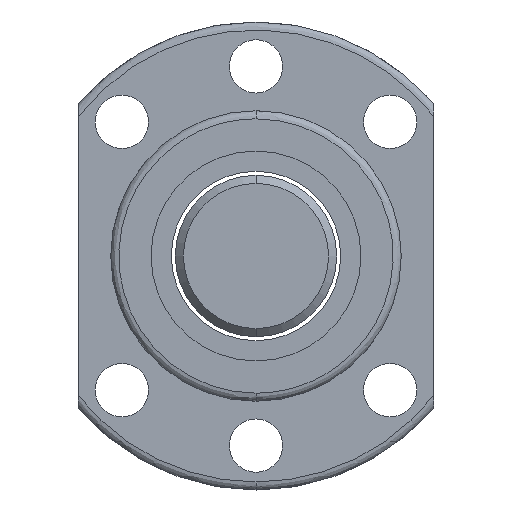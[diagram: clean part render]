
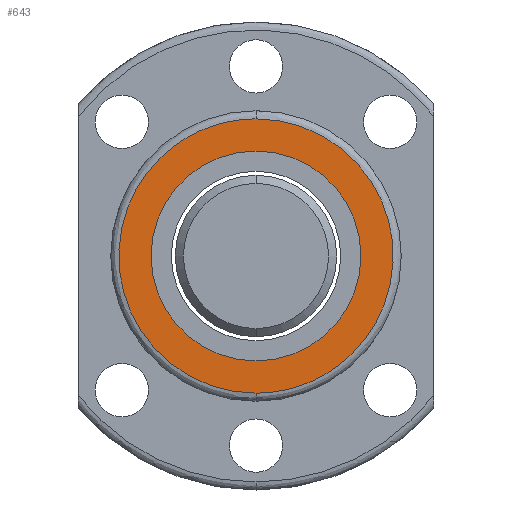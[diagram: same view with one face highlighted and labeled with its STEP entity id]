
A CAD part, left-side view. The second image highlights one B-rep face of the part: STEP entity #643.
In plain terms, the highlighted planar face has unit normal (-1, 0, 0).
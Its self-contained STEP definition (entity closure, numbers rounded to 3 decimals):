
#640 = EDGE_LOOP ( 'NONE', ( #845, #642 ) ) ;
#642 = ORIENTED_EDGE ( 'NONE', *, *, #757, .F. ) ;
#643 = ADVANCED_FACE ( 'NONE', ( #1626, #1627 ), #1648, .F. ) ;
#673 = VERTEX_POINT ( 'NONE', #1698 ) ;
#720 = VERTEX_POINT ( 'NONE', #1790 ) ;
#722 = EDGE_CURVE ( 'NONE', #720, #726, #1785, .T. ) ;
#726 = VERTEX_POINT ( 'NONE', #1774 ) ;
#757 = EDGE_CURVE ( 'NONE', #726, #720, #1737, .T. ) ;
#766 = ORIENTED_EDGE ( 'NONE', *, *, #820, .F. ) ;
#769 = EDGE_LOOP ( 'NONE', ( #865, #766 ) ) ;
#770 = EDGE_CURVE ( 'NONE', #817, #673, #1610, .T. ) ;
#817 = VERTEX_POINT ( 'NONE', #2018 ) ;
#820 = EDGE_CURVE ( 'NONE', #673, #817, #2014, .T. ) ;
#845 = ORIENTED_EDGE ( 'NONE', *, *, #722, .F. ) ;
#865 = ORIENTED_EDGE ( 'NONE', *, *, #770, .F. ) ;
#1543 = CARTESIAN_POINT ( 'NONE',  ( -116., 34., 17. ) ) ;
#1544 = CARTESIAN_POINT ( 'NONE',  ( -116., 34., -17. ) ) ;
#1549 = CARTESIAN_POINT ( 'NONE',  ( -116., 0., -17. ) ) ;
#1598 = DIRECTION ( 'NONE',  ( 0., 0., -1. ) ) ;
#1599 = DIRECTION ( 'NONE',  ( 1., 0., 0. ) ) ;
#1610 =( BOUNDED_CURVE ( )  B_SPLINE_CURVE ( 3, ( #1549, #1544, #1543, #1705 ),
 .UNSPECIFIED., .F., .F. ) 
 B_SPLINE_CURVE_WITH_KNOTS ( ( 4, 4 ),
 ( 0., 0.5 ),
 .UNSPECIFIED. ) 
 CURVE ( )  GEOMETRIC_REPRESENTATION_ITEM ( )  RATIONAL_B_SPLINE_CURVE ( ( 1., 0.333, 0.333, 1. ) ) 
 REPRESENTATION_ITEM ( '' )  );
#1626 = FACE_BOUND ( 'NONE', #640, .T. ) ;
#1627 = FACE_OUTER_BOUND ( 'NONE', #769, .T. ) ;
#1635 = CARTESIAN_POINT ( 'NONE',  ( -116., 15., 0. ) ) ;
#1640 = AXIS2_PLACEMENT_3D ( 'NONE', #1635, #1599, #1598 ) ;
#1648 = PLANE ( 'NONE',  #1640 ) ;
#1698 = CARTESIAN_POINT ( 'NONE',  ( -116., 0., 17. ) ) ;
#1705 = CARTESIAN_POINT ( 'NONE',  ( -116., 0., 17. ) ) ;
#1737 = CIRCLE ( 'NONE', #1848, 13. ) ;
#1738 = CARTESIAN_POINT ( 'NONE',  ( -116., 0., 0. ) ) ;
#1745 = CARTESIAN_POINT ( 'NONE',  ( -116., 0., 0. ) ) ;
#1766 = DIRECTION ( 'NONE',  ( 0., 0., -1. ) ) ;
#1767 = DIRECTION ( 'NONE',  ( -1., 0., 0. ) ) ;
#1768 = AXIS2_PLACEMENT_3D ( 'NONE', #1745, #1767, #1766 ) ;
#1774 = CARTESIAN_POINT ( 'NONE',  ( -116., 0., 13. ) ) ;
#1785 = CIRCLE ( 'NONE', #1768, 13. ) ;
#1790 = CARTESIAN_POINT ( 'NONE',  ( -116., 0., -13. ) ) ;
#1846 = DIRECTION ( 'NONE',  ( 0., 0., -1. ) ) ;
#1847 = DIRECTION ( 'NONE',  ( -1., 0., 0. ) ) ;
#1848 = AXIS2_PLACEMENT_3D ( 'NONE', #1738, #1847, #1846 ) ;
#1955 = CARTESIAN_POINT ( 'NONE',  ( -116., -34., 17. ) ) ;
#1956 = CARTESIAN_POINT ( 'NONE',  ( -116., 0., 17. ) ) ;
#2003 = CARTESIAN_POINT ( 'NONE',  ( -116., 0., -17. ) ) ;
#2004 = CARTESIAN_POINT ( 'NONE',  ( -116., -34., -17. ) ) ;
#2014 =( BOUNDED_CURVE ( )  B_SPLINE_CURVE ( 3, ( #1956, #1955, #2004, #2003 ),
 .UNSPECIFIED., .F., .F. ) 
 B_SPLINE_CURVE_WITH_KNOTS ( ( 4, 4 ),
 ( 0.5, 1. ),
 .UNSPECIFIED. ) 
 CURVE ( )  GEOMETRIC_REPRESENTATION_ITEM ( )  RATIONAL_B_SPLINE_CURVE ( ( 1., 0.333, 0.333, 1. ) ) 
 REPRESENTATION_ITEM ( '' )  );
#2018 = CARTESIAN_POINT ( 'NONE',  ( -116., 0., -17. ) ) ;
